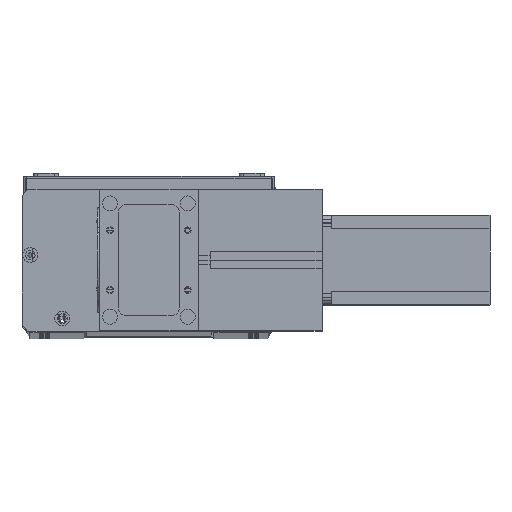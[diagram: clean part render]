
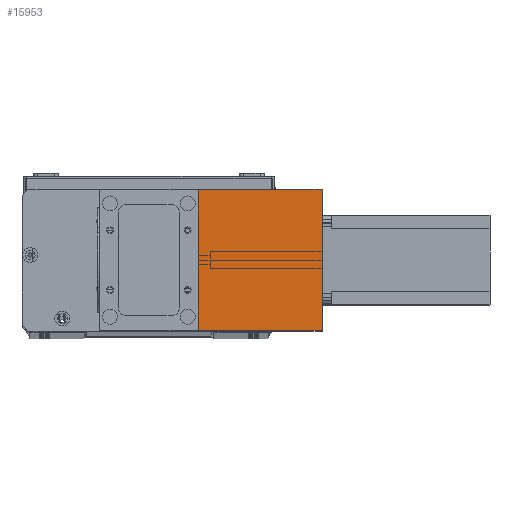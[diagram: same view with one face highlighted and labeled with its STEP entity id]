
A CAD part, top view. The second image highlights one B-rep face of the part: STEP entity #15953.
In plain terms, the highlighted planar face has unit normal (0, 0, 1) as drawn and (1, 0, 0) by its records, which use the part's own axes.
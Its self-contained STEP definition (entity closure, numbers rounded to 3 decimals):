
#2061 = DIRECTION ( 'NONE',  ( 0., 1., 0. ) ) ;
#3047 = CARTESIAN_POINT ( 'NONE',  ( 82., 0., 83. ) ) ;
#4715 = FACE_OUTER_BOUND ( 'NONE', #9903, .T. ) ;
#4985 = ORIENTED_EDGE ( 'NONE', *, *, #15631, .T. ) ;
#6111 = CARTESIAN_POINT ( 'NONE',  ( 82., 0., 83. ) ) ;
#6117 = ORIENTED_EDGE ( 'NONE', *, *, #29488, .F. ) ;
#8506 = DIRECTION ( 'NONE',  ( 0., 0., -1. ) ) ;
#9208 = DIRECTION ( 'NONE',  ( 0., 1., 0. ) ) ;
#9579 = ORIENTED_EDGE ( 'NONE', *, *, #28915, .F. ) ;
#9903 = EDGE_LOOP ( 'NONE', ( #13082, #9579, #6117, #4985 ) ) ;
#11554 = LINE ( 'NONE', #13492, #17855 ) ;
#12598 = DIRECTION ( 'NONE',  ( -1., 0., 0. ) ) ;
#12878 = LINE ( 'NONE', #6111, #24461 ) ;
#13082 = ORIENTED_EDGE ( 'NONE', *, *, #25285, .T. ) ;
#13492 = CARTESIAN_POINT ( 'NONE',  ( 82., 95., 83. ) ) ;
#13551 = LINE ( 'NONE', #25448, #25133 ) ;
#15573 = VECTOR ( 'NONE', #2061, 1000. ) ;
#15631 = EDGE_CURVE ( 'NONE', #18539, #29928, #12878, .T. ) ;
#15953 = ADVANCED_FACE ( 'NONE', ( #4715 ), #24165, .F. ) ;
#16166 = CARTESIAN_POINT ( 'NONE',  ( 82., 95., 83. ) ) ;
#16944 = AXIS2_PLACEMENT_3D ( 'NONE', #19512, #12598, #28742 ) ;
#17855 = VECTOR ( 'NONE', #29589, 1000. ) ;
#18539 = VERTEX_POINT ( 'NONE', #3047 ) ;
#18650 = CARTESIAN_POINT ( 'NONE',  ( 82., 0., 83. ) ) ;
#19208 = VERTEX_POINT ( 'NONE', #29555 ) ;
#19512 = CARTESIAN_POINT ( 'NONE',  ( 82., 0., 83. ) ) ;
#24165 = PLANE ( 'NONE',  #16944 ) ;
#24461 = VECTOR ( 'NONE', #8506, 1000. ) ;
#25133 = VECTOR ( 'NONE', #9208, 1000. ) ;
#25285 = EDGE_CURVE ( 'NONE', #29928, #19208, #13551, .T. ) ;
#25448 = CARTESIAN_POINT ( 'NONE',  ( 82., 0., 0. ) ) ;
#28518 = LINE ( 'NONE', #18650, #15573 ) ;
#28742 = DIRECTION ( 'NONE',  ( 0., 0., 1. ) ) ;
#28915 = EDGE_CURVE ( 'NONE', #29470, #19208, #11554, .T. ) ;
#29461 = CARTESIAN_POINT ( 'NONE',  ( 82., 0., 0. ) ) ;
#29470 = VERTEX_POINT ( 'NONE', #16166 ) ;
#29488 = EDGE_CURVE ( 'NONE', #18539, #29470, #28518, .T. ) ;
#29555 = CARTESIAN_POINT ( 'NONE',  ( 82., 95., 0. ) ) ;
#29589 = DIRECTION ( 'NONE',  ( 0., 0., -1. ) ) ;
#29928 = VERTEX_POINT ( 'NONE', #29461 ) ;
